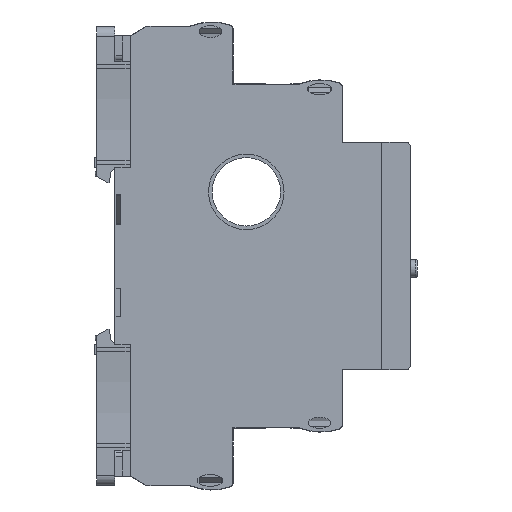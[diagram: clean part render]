
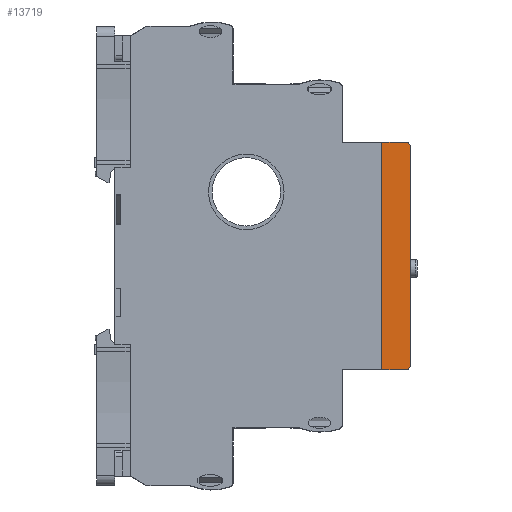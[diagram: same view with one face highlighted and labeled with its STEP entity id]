
A CAD part, front view. The second image highlights one B-rep face of the part: STEP entity #13719.
In plain terms, the highlighted planar face has unit normal (0, -1, 0) as drawn and (-1, 0, 0) by its records, which use the part's own axes.
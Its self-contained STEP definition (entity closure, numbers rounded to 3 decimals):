
#13719=ADVANCED_FACE('',(#35218),#35220,.T.);
#35218=FACE_BOUND('',#35219,.T.);
#35219=EDGE_LOOP('',(#111930,#111931,#111932,#111933,#111934,#111935));
#35220=PLANE('',#35221);
#35221=AXIS2_PLACEMENT_3D('',#35222,#35223,#35224);
#35222=CARTESIAN_POINT('',(-8.875,-22.6,1.5));
#35223=DIRECTION('',(-1.,0.,0.));
#35224=DIRECTION('',(0.,-1.,0.));
#111930=ORIENTED_EDGE('',*,*,#183726,.T.);
#111931=ORIENTED_EDGE('',*,*,#183713,.T.);
#111932=ORIENTED_EDGE('',*,*,#183711,.F.);
#111933=ORIENTED_EDGE('',*,*,#183721,.T.);
#111934=ORIENTED_EDGE('',*,*,#183722,.F.);
#111935=ORIENTED_EDGE('',*,*,#183694,.T.);
#183694=EDGE_CURVE('',#218210,#218214,#218216,.T.);
#183711=EDGE_CURVE('',#218240,#218242,#218243,.T.);
#183713=EDGE_CURVE('',#218245,#218242,#218246,.T.);
#183721=EDGE_CURVE('',#218240,#218257,#218259,.T.);
#183722=EDGE_CURVE('',#218210,#218257,#218260,.T.);
#183726=EDGE_CURVE('',#218214,#218245,#218264,.T.);
#218210=VERTEX_POINT('',#279105);
#218214=VERTEX_POINT('',#279113);
#218216=LINE('',#279117,#279118);
#218240=VERTEX_POINT('',#279173);
#218242=VERTEX_POINT('',#279177);
#218243=LINE('',#279178,#279179);
#218245=VERTEX_POINT('',#279184);
#218246=CIRCLE('',#279185,1.);
#218257=VERTEX_POINT('',#279213);
#218259=CIRCLE('',#279217,1.);
#218260=LINE('',#279221,#279222);
#218264=LINE('',#279233,#279234);
#279105=CARTESIAN_POINT('',(-8.875,-22.6,5.75));
#279113=CARTESIAN_POINT('',(-8.875,22.6,5.75));
#279117=CARTESIAN_POINT('',(-8.875,-22.6,5.75));
#279118=VECTOR('',#279119,1.);
#279119=DIRECTION('',(0.,1.,0.));
#279173=CARTESIAN_POINT('',(-8.875,-21.6,0.));
#279177=CARTESIAN_POINT('',(-8.875,21.6,0.));
#279178=CARTESIAN_POINT('',(-8.875,-21.6,0.));
#279179=VECTOR('',#279180,1.);
#279180=DIRECTION('',(0.,1.,0.));
#279184=CARTESIAN_POINT('',(-8.875,22.6,1.));
#279185=AXIS2_PLACEMENT_3D('',#279186,#279187,#279188);
#279186=CARTESIAN_POINT('',(-8.875,21.6,1.));
#279187=DIRECTION('',(-1.,0.,0.));
#279188=DIRECTION('',(0.,1.,0.));
#279213=CARTESIAN_POINT('',(-8.875,-22.6,1.));
#279217=AXIS2_PLACEMENT_3D('',#279218,#279219,#279220);
#279218=CARTESIAN_POINT('',(-8.875,-21.6,1.));
#279219=DIRECTION('',(-1.,0.,0.));
#279220=DIRECTION('',(0.,0.,-1.));
#279221=CARTESIAN_POINT('',(-8.875,-22.6,5.75));
#279222=VECTOR('',#279223,1.);
#279223=DIRECTION('',(0.,0.,-1.));
#279233=CARTESIAN_POINT('',(-8.875,22.6,5.75));
#279234=VECTOR('',#279235,1.);
#279235=DIRECTION('',(0.,0.,-1.));
